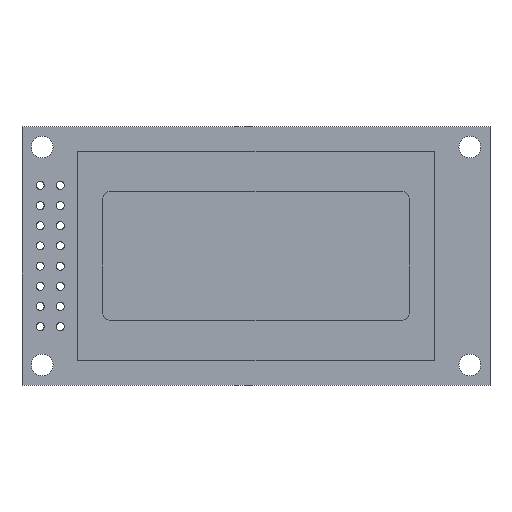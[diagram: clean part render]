
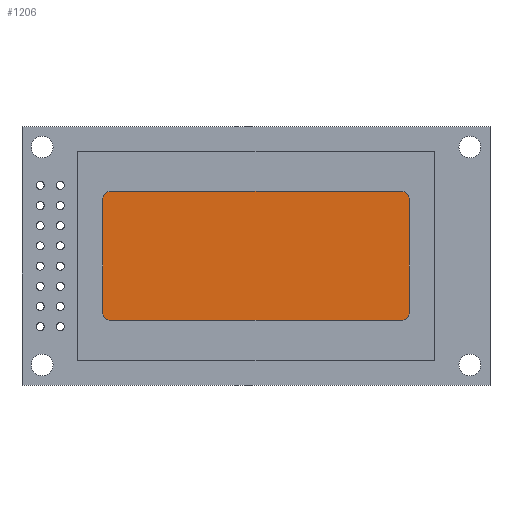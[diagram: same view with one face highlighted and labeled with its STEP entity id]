
A CAD part, top view. The second image highlights one B-rep face of the part: STEP entity #1206.
In plain terms, the highlighted planar face has unit normal (0, 0, 1).
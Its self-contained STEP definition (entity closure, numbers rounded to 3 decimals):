
#19 = VERTEX_POINT ( 'NONE', #896 ) ;
#78 = EDGE_CURVE ( 'NONE', #1235, #745, #406, .T. ) ;
#80 = ORIENTED_EDGE ( 'NONE', *, *, #638, .T. ) ;
#81 = CARTESIAN_POINT ( 'NONE',  ( 18., 7., 6. ) ) ;
#84 = CARTESIAN_POINT ( 'NONE',  ( 18., -8., 6. ) ) ;
#86 = VERTEX_POINT ( 'NONE', #1189 ) ;
#93 = CARTESIAN_POINT ( 'NONE',  ( -19., -8., 6. ) ) ;
#95 = VERTEX_POINT ( 'NONE', #1408 ) ;
#122 = CARTESIAN_POINT ( 'NONE',  ( 18., -7., 6. ) ) ;
#125 = DIRECTION ( 'NONE',  ( 0., 0., 1. ) ) ;
#129 = DIRECTION ( 'NONE',  ( 0., 0., 1. ) ) ;
#132 = DIRECTION ( 'NONE',  ( -1., 0., 0. ) ) ;
#169 = FACE_OUTER_BOUND ( 'NONE', #1054, .T. ) ;
#179 = AXIS2_PLACEMENT_3D ( 'NONE', #1055, #125, #132 ) ;
#195 = ORIENTED_EDGE ( 'NONE', *, *, #78, .T. ) ;
#202 = DIRECTION ( 'NONE',  ( -1., 0., 0. ) ) ;
#207 = AXIS2_PLACEMENT_3D ( 'NONE', #568, #806, #1036 ) ;
#215 = EDGE_CURVE ( 'NONE', #1355, #86, #653, .T. ) ;
#277 = CIRCLE ( 'NONE', #679, 1. ) ;
#283 = EDGE_CURVE ( 'NONE', #745, #324, #344, .T. ) ;
#324 = VERTEX_POINT ( 'NONE', #84 ) ;
#344 = LINE ( 'NONE', #468, #1218 ) ;
#406 = CIRCLE ( 'NONE', #207, 1. ) ;
#415 = PLANE ( 'NONE',  #1008 ) ;
#441 = CIRCLE ( 'NONE', #1339, 1. ) ;
#468 = CARTESIAN_POINT ( 'NONE',  ( -19., -8., 6. ) ) ;
#470 = EDGE_CURVE ( 'NONE', #324, #95, #441, .T. ) ;
#525 = CARTESIAN_POINT ( 'NONE',  ( -19., -7., 6. ) ) ;
#542 = ORIENTED_EDGE ( 'NONE', *, *, #1037, .T. ) ;
#563 = ORIENTED_EDGE ( 'NONE', *, *, #283, .T. ) ;
#568 = CARTESIAN_POINT ( 'NONE',  ( -18., -7., 6. ) ) ;
#569 = DIRECTION ( 'NONE',  ( 0., -1., 0. ) ) ;
#638 = EDGE_CURVE ( 'NONE', #19, #1355, #277, .T. ) ;
#653 = LINE ( 'NONE', #1242, #1227 ) ;
#679 = AXIS2_PLACEMENT_3D ( 'NONE', #81, #1155, #901 ) ;
#684 = EDGE_CURVE ( 'NONE', #86, #1522, #849, .T. ) ;
#745 = VERTEX_POINT ( 'NONE', #1395 ) ;
#806 = DIRECTION ( 'NONE',  ( 0., 0., 1. ) ) ;
#849 = CIRCLE ( 'NONE', #179, 1. ) ;
#857 = VECTOR ( 'NONE', #1056, 1000. ) ;
#896 = CARTESIAN_POINT ( 'NONE',  ( 19., 7., 6. ) ) ;
#901 = DIRECTION ( 'NONE',  ( -1., 0., 0. ) ) ;
#949 = DIRECTION ( 'NONE',  ( -1., 0., 0. ) ) ;
#972 = CARTESIAN_POINT ( 'NONE',  ( 18., 8., 6. ) ) ;
#981 = ORIENTED_EDGE ( 'NONE', *, *, #684, .T. ) ;
#985 = CARTESIAN_POINT ( 'NONE',  ( -19., 7., 6. ) ) ;
#1008 = AXIS2_PLACEMENT_3D ( 'NONE', #1266, #1256, #202 ) ;
#1026 = LINE ( 'NONE', #1492, #857 ) ;
#1036 = DIRECTION ( 'NONE',  ( -1., 0., 0. ) ) ;
#1037 = EDGE_CURVE ( 'NONE', #1522, #1235, #1162, .T. ) ;
#1054 = EDGE_LOOP ( 'NONE', ( #542, #195, #563, #1244, #1185, #80, #1210, #981 ) ) ;
#1055 = CARTESIAN_POINT ( 'NONE',  ( -18., 7., 6. ) ) ;
#1056 = DIRECTION ( 'NONE',  ( 0., 1., 0. ) ) ;
#1061 = VECTOR ( 'NONE', #569, 1000. ) ;
#1155 = DIRECTION ( 'NONE',  ( 0., 0., 1. ) ) ;
#1162 = LINE ( 'NONE', #93, #1061 ) ;
#1185 = ORIENTED_EDGE ( 'NONE', *, *, #1490, .T. ) ;
#1189 = CARTESIAN_POINT ( 'NONE',  ( -18., 8., 6. ) ) ;
#1206 = ADVANCED_FACE ( 'NONE', ( #169 ), #415, .F. ) ;
#1210 = ORIENTED_EDGE ( 'NONE', *, *, #215, .T. ) ;
#1218 = VECTOR ( 'NONE', #1501, 1000. ) ;
#1227 = VECTOR ( 'NONE', #1463, 1000. ) ;
#1235 = VERTEX_POINT ( 'NONE', #525 ) ;
#1242 = CARTESIAN_POINT ( 'NONE',  ( -19., 8., 6. ) ) ;
#1244 = ORIENTED_EDGE ( 'NONE', *, *, #470, .T. ) ;
#1256 = DIRECTION ( 'NONE',  ( 0., 0., -1. ) ) ;
#1266 = CARTESIAN_POINT ( 'NONE',  ( 0., 0., 6. ) ) ;
#1339 = AXIS2_PLACEMENT_3D ( 'NONE', #122, #129, #949 ) ;
#1355 = VERTEX_POINT ( 'NONE', #972 ) ;
#1395 = CARTESIAN_POINT ( 'NONE',  ( -18., -8., 6. ) ) ;
#1408 = CARTESIAN_POINT ( 'NONE',  ( 19., -7., 6. ) ) ;
#1463 = DIRECTION ( 'NONE',  ( -1., 0., 0. ) ) ;
#1490 = EDGE_CURVE ( 'NONE', #95, #19, #1026, .T. ) ;
#1492 = CARTESIAN_POINT ( 'NONE',  ( 19., -8., 6. ) ) ;
#1501 = DIRECTION ( 'NONE',  ( 1., 0., 0. ) ) ;
#1522 = VERTEX_POINT ( 'NONE', #985 ) ;
